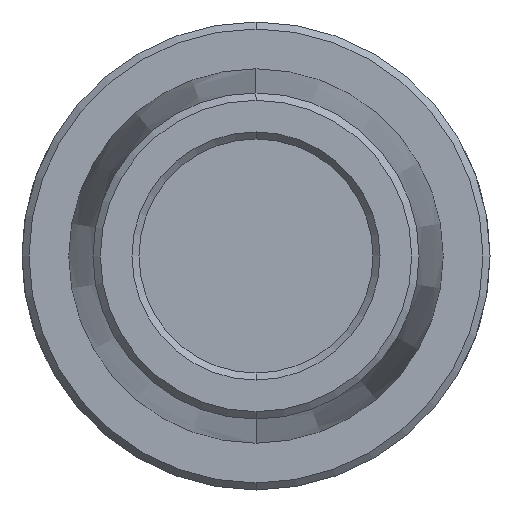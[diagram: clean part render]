
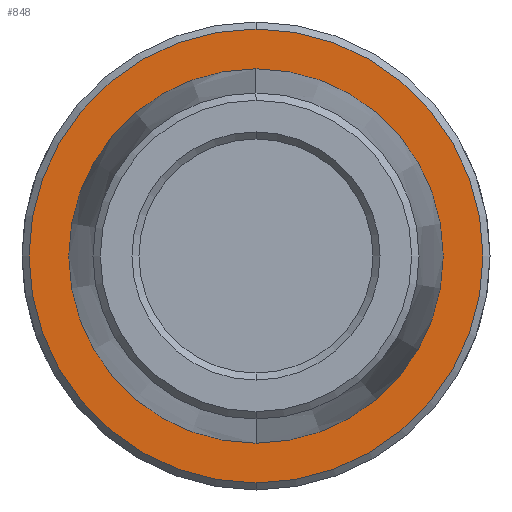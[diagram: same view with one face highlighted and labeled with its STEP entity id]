
A CAD part, front view. The second image highlights one B-rep face of the part: STEP entity #848.
In plain terms, the highlighted planar face has unit normal (0, -1, 0).
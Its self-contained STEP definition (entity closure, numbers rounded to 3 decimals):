
#47 = ORIENTED_EDGE ( 'NONE', *, *, #264, .T. ) ;
#55 = DIRECTION ( 'NONE',  ( 0., 0., 1. ) ) ;
#88 = VERTEX_POINT ( 'NONE', #229 ) ;
#126 = ORIENTED_EDGE ( 'NONE', *, *, #591, .F. ) ;
#206 = EDGE_CURVE ( 'NONE', #769, #235, #363, .T. ) ;
#210 = FACE_BOUND ( 'NONE', #944, .T. ) ;
#229 = CARTESIAN_POINT ( 'NONE',  ( 0., 0., -8. ) ) ;
#233 = FACE_OUTER_BOUND ( 'NONE', #315, .T. ) ;
#234 = DIRECTION ( 'NONE',  ( 0., -1., 0. ) ) ;
#235 = VERTEX_POINT ( 'NONE', #942 ) ;
#264 = EDGE_CURVE ( 'NONE', #235, #769, #879, .T. ) ;
#267 = PLANE ( 'NONE',  #522 ) ;
#277 = CARTESIAN_POINT ( 'NONE',  ( 0., 0., 8. ) ) ;
#312 = CARTESIAN_POINT ( 'NONE',  ( 0., 0., 0. ) ) ;
#315 = EDGE_LOOP ( 'NONE', ( #975, #47 ) ) ;
#363 = CIRCLE ( 'NONE', #501, 9.7 ) ;
#381 = CIRCLE ( 'NONE', #502, 8. ) ;
#395 = DIRECTION ( 'NONE',  ( 0., 0., 1. ) ) ;
#411 = EDGE_CURVE ( 'NONE', #88, #932, #381, .T. ) ;
#459 = AXIS2_PLACEMENT_3D ( 'NONE', #921, #619, #761 ) ;
#460 = DIRECTION ( 'NONE',  ( 0., -1., 0. ) ) ;
#462 = CARTESIAN_POINT ( 'NONE',  ( 0., 0., 9.7 ) ) ;
#501 = AXIS2_PLACEMENT_3D ( 'NONE', #705, #460, #763 ) ;
#502 = AXIS2_PLACEMENT_3D ( 'NONE', #506, #745, #55 ) ;
#506 = CARTESIAN_POINT ( 'NONE',  ( 0., 0., 0. ) ) ;
#522 = AXIS2_PLACEMENT_3D ( 'NONE', #816, #730, #569 ) ;
#569 = DIRECTION ( 'NONE',  ( 0., 0., 1. ) ) ;
#591 = EDGE_CURVE ( 'NONE', #932, #88, #611, .T. ) ;
#611 = CIRCLE ( 'NONE', #459, 8. ) ;
#619 = DIRECTION ( 'NONE',  ( 0., -1., 0. ) ) ;
#705 = CARTESIAN_POINT ( 'NONE',  ( 0., 0., 0. ) ) ;
#728 = ORIENTED_EDGE ( 'NONE', *, *, #411, .F. ) ;
#730 = DIRECTION ( 'NONE',  ( 0., 1., 0. ) ) ;
#745 = DIRECTION ( 'NONE',  ( 0., -1., 0. ) ) ;
#752 = AXIS2_PLACEMENT_3D ( 'NONE', #312, #234, #395 ) ;
#761 = DIRECTION ( 'NONE',  ( 0., 0., 1. ) ) ;
#763 = DIRECTION ( 'NONE',  ( 0., 0., 1. ) ) ;
#769 = VERTEX_POINT ( 'NONE', #462 ) ;
#816 = CARTESIAN_POINT ( 'NONE',  ( 0., 0., 0. ) ) ;
#848 = ADVANCED_FACE ( 'NONE', ( #233, #210 ), #267, .F. ) ;
#879 = CIRCLE ( 'NONE', #752, 9.7 ) ;
#921 = CARTESIAN_POINT ( 'NONE',  ( 0., 0., 0. ) ) ;
#932 = VERTEX_POINT ( 'NONE', #277 ) ;
#942 = CARTESIAN_POINT ( 'NONE',  ( 0., 0., -9.7 ) ) ;
#944 = EDGE_LOOP ( 'NONE', ( #728, #126 ) ) ;
#975 = ORIENTED_EDGE ( 'NONE', *, *, #206, .T. ) ;
